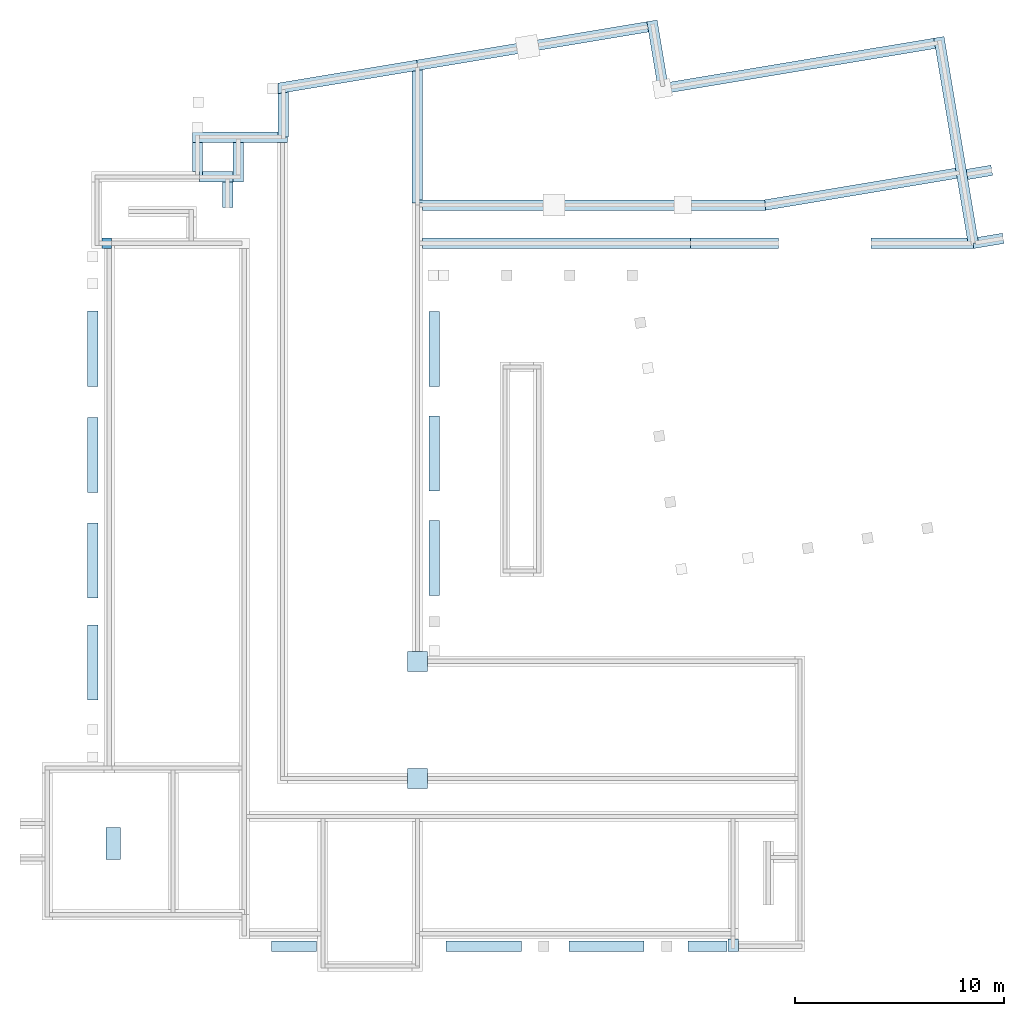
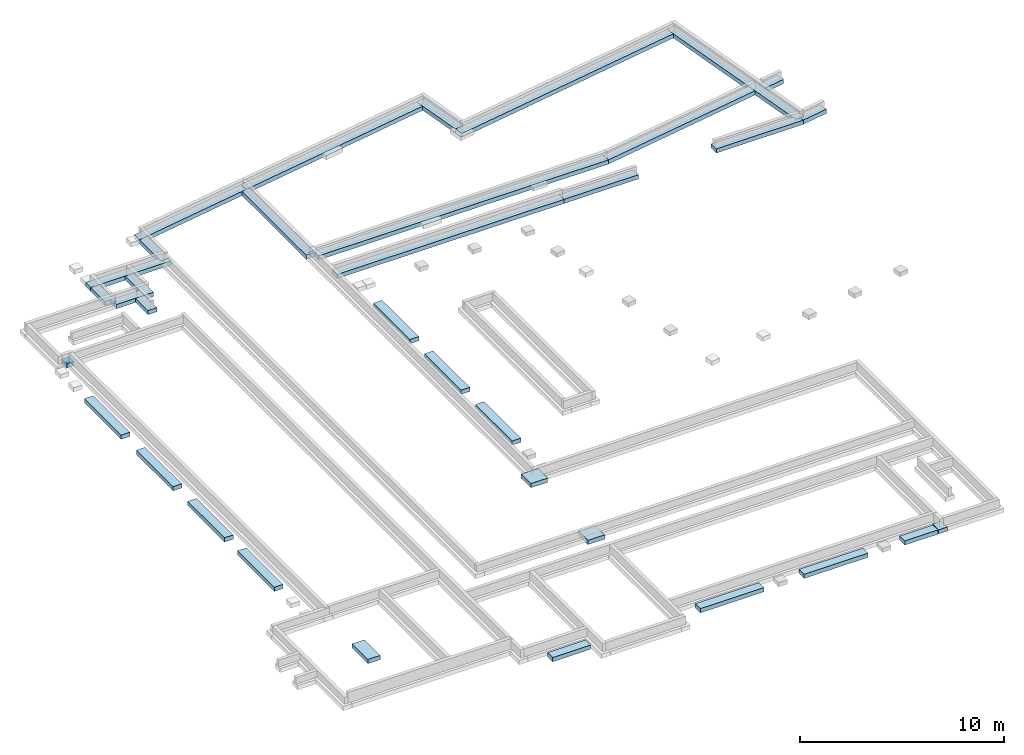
# One storey, part 2 of 5: 21 footings, 16 slabs.
"""IFC4 building model written with IfcOpenShell, lengths in metres."""

from ifc_helpers import new_model, entity, si_unit, converted_unit, derived_unit, direction, frame, origin, place, context, subcontext, project, spatial, indexed_curve, outline, extrude, material, type_object, element, save


model = new_model("IFC4")

# Units and contexts
model_context = context("Model", 3, precision=1e-05, world=origin(), true_north=direction((6.123031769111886e-17, 1.0)))
body_context = subcontext(model_context, "Body", "Model", "MODEL_VIEW")
ifc_project = project(units=[si_unit("LENGTHUNIT", "METRE"), si_unit("AREAUNIT", "SQUARE_METRE"), si_unit("VOLUMEUNIT", "CUBIC_METRE"), converted_unit("PLANEANGLEUNIT", "DEGREE", entity("IfcRatioMeasure", 0.017453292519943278), si_unit("PLANEANGLEUNIT", "RADIAN"), dimensions=[0, 0, 0, 0, 0, 0, 0]), si_unit("MASSUNIT", "GRAM", prefix="KILO"), derived_unit("MASSDENSITYUNIT", [(si_unit("MASSUNIT", "GRAM", prefix="KILO"), 1), (si_unit("LENGTHUNIT", "METRE"), -3)]), derived_unit("MOMENTOFINERTIAUNIT", [(si_unit("LENGTHUNIT", "METRE"), 4)]), si_unit("TIMEUNIT", "SECOND"), si_unit("FREQUENCYUNIT", "HERTZ"), si_unit("THERMODYNAMICTEMPERATUREUNIT", "DEGREE_CELSIUS"), derived_unit("THERMALTRANSMITTANCEUNIT", [(si_unit("MASSUNIT", "GRAM", prefix="KILO"), 1), (si_unit("THERMODYNAMICTEMPERATUREUNIT", "KELVIN"), -1), (si_unit("TIMEUNIT", "SECOND"), -3)]), derived_unit("VOLUMETRICFLOWRATEUNIT", [(si_unit("LENGTHUNIT", "METRE"), 3), (si_unit("TIMEUNIT", "SECOND"), -1)]), derived_unit("MASSFLOWRATEUNIT", [(si_unit("MASSUNIT", "GRAM", prefix="KILO"), 1), (si_unit("TIMEUNIT", "SECOND"), -1)]), derived_unit("ROTATIONALFREQUENCYUNIT", [(si_unit("TIMEUNIT", "SECOND"), -1)]), si_unit("ELECTRICCURRENTUNIT", "AMPERE"), si_unit("ELECTRICVOLTAGEUNIT", "VOLT"), si_unit("POWERUNIT", "WATT"), si_unit("FORCEUNIT", "NEWTON", prefix="KILO"), si_unit("ILLUMINANCEUNIT", "LUX"), si_unit("LUMINOUSFLUXUNIT", "LUMEN"), si_unit("LUMINOUSINTENSITYUNIT", "CANDELA"), derived_unit("USERDEFINED", [(si_unit("MASSUNIT", "GRAM", prefix="KILO"), -1), (si_unit("LENGTHUNIT", "METRE"), -2), (si_unit("TIMEUNIT", "SECOND"), 3), (si_unit("LUMINOUSFLUXUNIT", "LUMEN"), 1)]), derived_unit("SOUNDPOWERUNIT", [(si_unit("MASSUNIT", "GRAM", prefix="KILO"), 1), (si_unit("LENGTHUNIT", "METRE"), 2), (si_unit("TIMEUNIT", "SECOND"), -3)]), derived_unit("SOUNDPRESSUREUNIT", [(si_unit("MASSUNIT", "GRAM", prefix="KILO"), 1), (si_unit("LENGTHUNIT", "METRE"), -1), (si_unit("TIMEUNIT", "SECOND"), -2)]), derived_unit("LINEARVELOCITYUNIT", [(si_unit("LENGTHUNIT", "METRE"), 1), (si_unit("TIMEUNIT", "SECOND"), -1)]), si_unit("PRESSUREUNIT", "PASCAL"), derived_unit("USERDEFINED", [(si_unit("LENGTHUNIT", "METRE"), -2), (si_unit("MASSUNIT", "GRAM", prefix="KILO"), 1), (si_unit("TIMEUNIT", "SECOND"), -2)]), derived_unit("LINEARFORCEUNIT", [(si_unit("MASSUNIT", "GRAM", prefix="KILO"), 1), (si_unit("LENGTHUNIT", "METRE"), 1), (si_unit("TIMEUNIT", "SECOND"), -2), (si_unit("LENGTHUNIT", "METRE"), -1)]), derived_unit("PLANARFORCEUNIT", [(si_unit("MASSUNIT", "GRAM", prefix="KILO"), 1), (si_unit("LENGTHUNIT", "METRE"), 1), (si_unit("TIMEUNIT", "SECOND"), -2), (si_unit("LENGTHUNIT", "METRE"), -2)])], contexts=[model_context])

# Site, building, storey
site_placement = place(None, origin())
site = spatial("IfcSite", under=ifc_project, at=site_placement, Name="Default", CompositionType="ELEMENT")
building_placement = place(site_placement, origin())
building = spatial("IfcBuilding", under=site, at=building_placement, CompositionType="ELEMENT")
storey_placement = place(building_placement, frame((0.0, 0.0, -0.88)))
storey = spatial("IfcBuildingStorey", under=building, at=storey_placement, Name="Arase inf soubassement", CompositionType="ELEMENT", Elevation=-0.88)

# Footings
ifc_material = material(Name="Maçonnerie - Béton", Category="Béton")
footing_type_1 = type_object("IfcFootingType", Name="Semelle filante:SF 50x25ht", PredefinedType="STRIP_FOOTING")
footing_1_placement = place(storey_placement, origin())
element("IfcFooting", 1, at=footing_1_placement, inside=storey, type_object=footing_type_1, material=ifc_material, Name="Semelle filante:SF 50x25ht", ObjectType="Semelle filante:SF 50x25ht", PredefinedType="STRIP_FOOTING", context=body_context, shape_type="SweptSolid", body=[
    extrude(outline(indexed_curve([(-3.6280551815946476, -0.27083333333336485), (-3.378055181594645, -0.2708333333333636), (-0.5780551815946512, -0.27083333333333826), (-0.07805518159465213, -0.27083333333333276), (6.361944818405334, -0.2708333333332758), (6.3619448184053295, 0.22916666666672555), (5.861944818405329, 0.22916666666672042), (0.061944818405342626, 0.22916666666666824), (-0.43805518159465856, 0.22916666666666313), (-3.3330044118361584, 0.22916666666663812), (-3.5864437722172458, 0.2291666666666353), (-3.628055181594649, -0.020833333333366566), (-3.6280551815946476, -0.27083333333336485)], self_intersect=False)), frame((14.71724122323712, 14.264505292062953, 0.0), z_axis=(0.0, 0.0, 1.0), x_axis=(-0.164186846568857, 0.9864292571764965, 0.0)), (0.0, 0.0, 1.0), 0.25),
])
footing_type_2 = type_object("IfcFootingType", Name="Semelle filante:SF 50x25ht", PredefinedType="STRIP_FOOTING")
footing_2_placement = place(storey_placement, origin())
element("IfcFooting", 2, at=footing_2_placement, inside=storey, type_object=footing_type_2, material=ifc_material, Name="Semelle filante:SF 50x25ht", ObjectType="Semelle filante:SF 50x25ht", PredefinedType="STRIP_FOOTING", context=body_context, shape_type="SweptSolid", body=[
    extrude(outline(indexed_curve([(-5.464000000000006, -0.3000000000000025), (7.946000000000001, -0.3000000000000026), (7.946000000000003, 0.1999999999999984), (-4.964000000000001, 0.19999999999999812), (-5.464000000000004, 0.19999999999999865), (-5.464000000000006, -0.3000000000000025)], self_intersect=False)), frame((5.641307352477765, 19.000573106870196, 0.0), z_axis=(0.0, 0.0, 1.0), x_axis=(0.9864292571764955, 0.16418684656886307, 0.0)), (0.0, 0.0, 1.0), 0.24999999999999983),
])
footing_type_3 = type_object("IfcFootingType", Name="Semelle filante:SF 50x25ht", PredefinedType="STRIP_FOOTING")
footing_3_placement = place(storey_placement, origin())
element("IfcFooting", 3, at=footing_3_placement, inside=storey, type_object=footing_type_3, material=ifc_material, Name="Semelle filante:SF 50x25ht", ObjectType="Semelle filante:SF 50x25ht", PredefinedType="STRIP_FOOTING", context=body_context, shape_type="SweptSolid", body=[
    extrude(outline(indexed_curve([(-1.3120000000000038, -0.19999999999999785), (-0.812000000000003, -0.19999999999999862), (1.7180000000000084, -0.2000000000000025), (1.7180000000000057, 0.29999999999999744), (-1.3120000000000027, 0.3000000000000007), (-1.3120000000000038, -0.19999999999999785)], self_intersect=False)), frame((0.13383337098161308, 20.028264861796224, 0.0), z_axis=(0.0, 0.0, 1.0), x_axis=(0.1641868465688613, -0.9864292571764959, 0.0)), (0.0, 0.0, 1.0), 0.24999999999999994),
])
footing_type_4 = type_object("IfcFootingType", Name="Semelle filante:SF 50x25ht", PredefinedType="STRIP_FOOTING")
footing_4_placement = place(storey_placement, origin())
element("IfcFooting", 4, at=footing_4_placement, inside=storey, type_object=footing_type_4, material=ifc_material, Name="Semelle filante:SF 50x25ht", ObjectType="Semelle filante:SF 50x25ht", PredefinedType="STRIP_FOOTING", context=body_context, shape_type="SweptSolid", body=[
    extrude(outline(indexed_curve([(-4.509236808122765, -0.19999999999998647), (-4.297408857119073, -0.19999999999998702), (6.657941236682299, -0.20000000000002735), (6.6579412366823, 0.2999999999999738), (-4.509236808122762, 0.3000000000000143), (-4.509236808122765, -0.19999999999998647)], self_intersect=False)), frame((-6.797197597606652, 19.90054752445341, 0.0), z_axis=(0.0, 0.0, 1.0), x_axis=(0.9864292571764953, 0.1641868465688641, 0.0)), (0.0, 0.0, 1.0), 0.24999999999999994),
])
footing_type_5 = type_object("IfcFootingType", Name="Semelle filante:SF 50x25ht", PredefinedType="STRIP_FOOTING")
footing_5_placement = place(storey_placement, origin())
element("IfcFooting", 5, at=footing_5_placement, inside=storey, type_object=footing_type_5, material=ifc_material, Name="Semelle filante:SF 50x25ht", ObjectType="Semelle filante:SF 50x25ht", PredefinedType="STRIP_FOOTING", context=body_context, shape_type="SweptSolid", body=[
    extrude(outline(indexed_curve([(-3.3483502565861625, -0.3333333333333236), (3.363477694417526, -0.333333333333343), (3.4467005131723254, 0.16666666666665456), (2.939821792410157, 0.16666666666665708), (-3.053299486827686, 0.1666666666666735), (-3.3483502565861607, 0.166666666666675), (-3.3483502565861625, -0.3333333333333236)], self_intersect=False)), frame((-14.542678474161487, 18.577554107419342, 0.0), z_axis=(0.0, 0.0, 1.0), x_axis=(-0.9864292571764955, -0.16418684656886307, 0.0)), (0.0, 0.0, 1.0), 0.2499999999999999),
])
footing_type_6 = type_object("IfcFootingType", Name="Semelle filante:SF 50x25ht", PredefinedType="STRIP_FOOTING")
footing_6_placement = place(storey_placement, origin())
element("IfcFooting", 6, at=footing_6_placement, inside=storey, type_object=footing_type_6, material=ifc_material, Name="Semelle filante:SF 50x25ht", ObjectType="Semelle filante:SF 50x25ht", PredefinedType="STRIP_FOOTING", context=body_context, shape_type="SweptSolid", body=[
    extrude(outline(indexed_curve([(-0.7482505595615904, -0.258034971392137), (1.4131125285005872, -0.2580349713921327), (1.3298897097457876, 0.24196502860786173), (-0.49825055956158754, 0.24196502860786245), (-0.7482505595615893, 0.24196502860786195), (-0.7482505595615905, -0.20982514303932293), (-0.7482505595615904, -0.258034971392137)], self_intersect=False)), frame((-17.673275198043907, 16.517356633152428, 0.0), z_axis=(0.0, 0.0, 1.0), x_axis=(0.0, 1.0, 0.0)), (0.0, 0.0, 1.0), 0.25),
])
footing_type_7 = type_object("IfcFootingType", Name="Semelle filante:SF 50x25ht", PredefinedType="STRIP_FOOTING")
footing_7_placement = place(storey_placement, origin())
element("IfcFooting", 7, at=footing_7_placement, inside=storey, type_object=footing_type_7, material=ifc_material, Name="Semelle filante:SF 50x25ht", ObjectType="Semelle filante:SF 50x25ht", PredefinedType="STRIP_FOOTING", context=body_context, shape_type="SweptSolid", body=[
    extrude(outline(indexed_curve([(-0.20499999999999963, -0.2916666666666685), (0.235, -0.2916666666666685), (0.23499999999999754, 0.20833333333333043), (0.14499999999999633, 0.20833333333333), (-0.20500000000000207, 0.20833333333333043), (-0.20500000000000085, -0.04166666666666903), (-0.20499999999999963, -0.2916666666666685)], self_intersect=False)), frame((-26.09845005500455, 10.647439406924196, 0.0), z_axis=(0.0, 0.0, 1.0), x_axis=(-1.0, 0.0, 0.0)), (0.0, 0.0, 1.0), 0.25),
])
footing_type_8 = type_object("IfcFootingType", Name="Semelle filante:SF 50x25ht", PredefinedType="STRIP_FOOTING")
footing_8_placement = place(storey_placement, origin())
element("IfcFooting", 8, at=footing_8_placement, inside=storey, type_object=footing_type_8, material=ifc_material, Name="Semelle filante:SF 50x25ht", ObjectType="Semelle filante:SF 50x25ht", PredefinedType="STRIP_FOOTING", context=body_context, shape_type="SweptSolid", body=[
    extrude(outline(indexed_curve([(-0.33999999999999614, -0.19999999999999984), (0.1600000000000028, -0.19999999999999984), (0.26000000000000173, -0.2000000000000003), (0.2600000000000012, 0.29999999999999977), (-0.3399999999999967, 0.3000000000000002), (-0.33999999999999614, -0.19999999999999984)], self_intersect=False)), frame((3.896549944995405, -22.845893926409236, 0.0), z_axis=(0.0, 0.0, 1.0), x_axis=(0.0, 1.0, 0.0)), (0.0, 0.0, 1.0), 0.25),
])
footing_type_9 = type_object("IfcFootingType", Name="Semelle filante:SF 50x25ht", PredefinedType="STRIP_FOOTING")
footing_9_placement = place(storey_placement, origin())
element("IfcFooting", 9, at=footing_9_placement, inside=storey, type_object=footing_type_9, material=ifc_material, Name="Semelle filante:SF 50x25ht", ObjectType="Semelle filante:SF 50x25ht", PredefinedType="STRIP_FOOTING", context=body_context, shape_type="SweptSolid", body=[
    extrude(outline(indexed_curve([(-6.40850601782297, -0.2499999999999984), (6.40850601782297, -0.2499999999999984), (6.408506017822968, 0.25000000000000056), (-6.40850601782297, 0.25000000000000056), (-6.40850601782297, -0.2499999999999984)], self_intersect=False)), frame((-4.5949440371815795, 10.689106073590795, 0.0)), (0.0, 0.0, 1.0), 0.25),
])
footing_type_10 = type_object("IfcFootingType", Name="Semelle filante:SF 50x25ht", PredefinedType="STRIP_FOOTING")
footing_10_placement = place(storey_placement, origin())
element("IfcFooting", 10, at=footing_10_placement, inside=storey, type_object=footing_type_10, material=ifc_material, Name="Semelle filante:SF 50x25ht", ObjectType="Semelle filante:SF 50x25ht", PredefinedType="STRIP_FOOTING", context=body_context, shape_type="SweptSolid", body=[
    extrude(outline(indexed_curve([(-3.178695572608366, -0.2499999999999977), (1.7419679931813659, -0.2499999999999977), (1.721304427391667, -4.393848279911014e-16), (1.4678650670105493, 8.34415684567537e-16), (1.426253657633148, 0.25000000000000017), (-3.178695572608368, 0.2500000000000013), (-3.178695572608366, -0.2499999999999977)], self_intersect=False)), frame((13.612166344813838, 10.689106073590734, 0.0)), (0.0, 0.0, 1.0), 0.25),
])
footing_type_11 = type_object("IfcFootingType", Name="Semelle filante:SF 50x25ht", PredefinedType="STRIP_FOOTING")
footing_11_placement = place(storey_placement, origin())
element("IfcFooting", 11, at=footing_11_placement, inside=storey, type_object=footing_type_11, material=ifc_material, Name="Semelle filante:SF 50x25ht", ObjectType="Semelle filante:SF 50x25ht", PredefinedType="STRIP_FOOTING", context=body_context, shape_type="SweptSolid", body=[
    extrude(outline(indexed_curve([(-0.886777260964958, -0.25), (0.3132227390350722, -0.2500000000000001), (0.31322273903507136, 6.344924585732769e-16), (0.5632227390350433, -2.368771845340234e-16), (0.5838863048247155, 0.2499999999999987), (-0.8867772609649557, 0.2499999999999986), (-0.886777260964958, -0.25)], self_intersect=False)), frame((15.88905016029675, 10.78157983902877, 0.0), z_axis=(0.0, 0.0, 1.0), x_axis=(-0.9864292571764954, -0.16418684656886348, 0.0)), (0.0, 0.0, 1.0), 0.25),
])
footing_type_12 = type_object("IfcFootingType", Name="Semelle filante:SF 50x25ht", PredefinedType="STRIP_FOOTING")
footing_12_placement = place(storey_placement, origin())
element("IfcFooting", 12, at=footing_12_placement, inside=storey, type_object=footing_type_12, material=ifc_material, Name="Semelle filante:SF 50x25ht", ObjectType="Semelle filante:SF 50x25ht", PredefinedType="STRIP_FOOTING", context=body_context, shape_type="SweptSolid", body=[
    extrude(outline(indexed_curve([(-0.6000000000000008, -0.2499999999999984), (0.600000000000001, -0.24999999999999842), (0.6000000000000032, 0.2500000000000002), (-0.5999999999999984, 0.2500000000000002), (-0.6000000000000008, -0.2499999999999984)], self_intersect=False)), frame((15.630119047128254, 14.083881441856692, 0.0), z_axis=(0.0, 0.0, 1.0), x_axis=(-0.9864292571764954, -0.16418684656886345, 0.0)), (0.0, 0.0, 1.0), 0.25),
])
footing_type_13 = type_object("IfcFootingType", Name="Semelle filante:SF 50x25ht", PredefinedType="STRIP_FOOTING")
footing_13_placement = place(storey_placement, origin())
element("IfcFooting", 13, at=footing_13_placement, inside=storey, type_object=footing_type_13, material=ifc_material, Name="Semelle filante:SF 50x25ht", ObjectType="Semelle filante:SF 50x25ht", PredefinedType="STRIP_FOOTING", context=body_context, shape_type="SweptSolid", body=[
    extrude(outline(indexed_curve([(-2.104999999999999, -0.2499999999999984), (2.1050000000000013, -0.2499999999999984), (2.105, 0.25000000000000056), (-2.105000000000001, 0.25000000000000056), (-2.104999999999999, -0.2499999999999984)], self_intersect=False)), frame((3.9185619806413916, 10.689106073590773, 0.0), z_axis=(0.0, 0.0, 1.0), x_axis=(-1.0, 0.0, 0.0)), (0.0, 0.0, 1.0), 0.25),
])
footing_type_14 = type_object("IfcFootingType", Name="Semelle filante:SF 50x25ht", PredefinedType="STRIP_FOOTING")
footing_14_placement = place(storey_placement, origin())
element("IfcFooting", 14, at=footing_14_placement, inside=storey, type_object=footing_type_14, material=ifc_material, Name="Semelle filante:SF 50x25ht", ObjectType="Semelle filante:SF 50x25ht", PredefinedType="STRIP_FOOTING", context=body_context, shape_type="SweptSolid", body=[
    extrude(outline(indexed_curve([(-0.18571428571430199, -4.858503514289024), (-0.03571428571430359, -4.858503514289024), (-0.03571428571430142, -4.608503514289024), (0.31428571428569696, -4.608503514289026), (0.31428571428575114, 11.791922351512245), (-0.18571428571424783, 11.750595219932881), (-0.18571428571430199, -4.608503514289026), (-0.18571428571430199, -4.858503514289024)], self_intersect=False)), frame((-6.394946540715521, 12.583391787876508, 0.0), z_axis=(0.0, 0.0, 1.0), x_axis=(0.0, -1.0, 0.0)), (0.0, 0.0, 1.0), 0.25),
])
footing_type_15 = type_object("IfcFootingType", Name="Semelle filante:SF 50x25ht", PredefinedType="STRIP_FOOTING")
footing_15_placement = place(storey_placement, origin())
element("IfcFooting", 15, at=footing_15_placement, inside=storey, type_object=footing_type_15, material=ifc_material, Name="Semelle filante:SF 50x25ht", ObjectType="Semelle filante:SF 50x25ht", PredefinedType="STRIP_FOOTING", context=body_context, shape_type="SweptSolid", body=[
    extrude(outline(indexed_curve([(-4.6564488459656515, -0.24999999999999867), (4.635785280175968, -0.2499999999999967), (4.635785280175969, 0.2499999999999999), (-4.615121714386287, 0.25000000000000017), (-4.6564488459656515, -0.24999999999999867)], self_intersect=False)), frame((9.949186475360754, 13.280241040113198, 0.0), z_axis=(0.0, 0.0, 1.0), x_axis=(0.9864292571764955, 0.16418684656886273, 0.0)), (0.0, 0.0, 1.0), 0.25),
])
footing_type_16 = type_object("IfcFootingType", Name="Semelle filante:SF 50x25ht", PredefinedType="STRIP_FOOTING")
footing_16_placement = place(storey_placement, origin())
element("IfcFooting", 16, at=footing_16_placement, inside=storey, type_object=footing_type_16, material=ifc_material, Name="Semelle filante:SF 50x25ht", ObjectType="Semelle filante:SF 50x25ht", PredefinedType="STRIP_FOOTING", context=body_context, shape_type="SweptSolid", body=[
    extrude(outline(indexed_curve([(-0.25586381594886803, -2.7596757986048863), (-0.005863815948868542, -2.7596757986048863), (-0.005863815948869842, -2.6096757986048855), (0.24413618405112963, -2.6096757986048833), (0.24413618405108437, 3.6189017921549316), (0.035182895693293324, 3.5841224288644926), (-0.2558638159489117, 3.5356789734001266), (-0.25586381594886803, -2.7596757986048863)], self_intersect=False)), frame((-11.247586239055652, 15.378781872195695, 0.0)), (0.0, 0.0, 1.0), 0.25),
])
footing_type_17 = type_object("IfcFootingType", Name="Semelle filante:SF 50x25ht", PredefinedType="STRIP_FOOTING")
footing_17_placement = place(storey_placement, origin())
element("IfcFooting", 17, at=footing_17_placement, inside=storey, type_object=footing_type_17, material=ifc_material, Name="Semelle filante:SF 50x25ht", ObjectType="Semelle filante:SF 50x25ht", PredefinedType="STRIP_FOOTING", context=body_context, shape_type="SweptSolid", body=[
    extrude(outline(indexed_curve([(-0.1500000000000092, -1.9303580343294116), (0.09999999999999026, -1.9303580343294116), (0.09999999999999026, -1.4785678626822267), (0.34999999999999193, -1.4785678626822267), (0.3500000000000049, 2.6296419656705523), (-0.14999999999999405, 2.6296419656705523), (-0.14999999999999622, 2.129641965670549), (-0.15000000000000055, 0.6796419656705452), (-0.15000000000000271, 0.17964196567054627), (-0.1500000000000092, -1.4303580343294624), (-0.1500000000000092, -1.9303580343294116)], self_intersect=False)), frame((-19.393808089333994, 15.669106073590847, 0.0), z_axis=(0.0, 0.0, 1.0), x_axis=(0.0, 1.0, 0.0)), (0.0, 0.0, 1.0), 0.25),
])
footing_type_18 = type_object("IfcFootingType", Name="Semelle filante:SF 50x25ht", PredefinedType="STRIP_FOOTING")
footing_18_placement = place(storey_placement, origin())
element("IfcFooting", 18, at=footing_18_placement, inside=storey, type_object=footing_type_18, material=ifc_material, Name="Semelle filante:SF 50x25ht", ObjectType="Semelle filante:SF 50x25ht", PredefinedType="STRIP_FOOTING", context=body_context, shape_type="SweptSolid", body=[
    extrude(outline(indexed_curve([(0.3285714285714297, 0.03571428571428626), (0.5785714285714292, 0.03571428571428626), (0.5785714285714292, 0.18571428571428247), (0.3285714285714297, 0.18571428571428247), (-1.0714285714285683, 0.1857142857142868), (-1.0714285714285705, -0.31428571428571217), (0.3285714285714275, -0.3142857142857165), (0.3285714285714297, 0.03571428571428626)], self_intersect=False)), frame((-21.709164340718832, 14.447677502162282, 0.0), z_axis=(0.0, 0.0, 1.0), x_axis=(0.0, -1.0, 0.0)), (0.0, 0.0, 1.0), 0.25),
])
footing_type_19 = type_object("IfcFootingType", Name="Semelle filante:SF 50x25ht", PredefinedType="STRIP_FOOTING")
footing_19_placement = place(storey_placement, origin())
element("IfcFooting", 19, at=footing_19_placement, inside=storey, type_object=footing_type_19, material=ifc_material, Name="Semelle filante:SF 50x25ht", ObjectType="Semelle filante:SF 50x25ht", PredefinedType="STRIP_FOOTING", context=body_context, shape_type="SweptSolid", body=[
    extrude(outline(indexed_curve([(-0.8599999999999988, -0.29999999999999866), (1.0399999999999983, -0.2999999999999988), (1.0399999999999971, 0.20000000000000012), (-0.35999999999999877, 0.2000000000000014), (-0.8599999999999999, 0.20000000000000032), (-0.8599999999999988, -0.29999999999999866)], self_intersect=False)), frame((-19.873450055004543, 14.479106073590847, 0.0), z_axis=(0.0, 0.0, 1.0), x_axis=(0.0, 1.0, 0.0)), (0.0, 0.0, 1.0), 0.25),
])
footing_type_20 = type_object("IfcFootingType", Name="Semelle filante:SF 50x25ht", PredefinedType="STRIP_FOOTING")
footing_20_placement = place(storey_placement, origin())
element("IfcFooting", 20, at=footing_20_placement, inside=storey, type_object=footing_type_20, material=ifc_material, Name="Semelle filante:SF 50x25ht", ObjectType="Semelle filante:SF 50x25ht", PredefinedType="STRIP_FOOTING", context=body_context, shape_type="SweptSolid", body=[
    extrude(outline(indexed_curve([(-0.7724999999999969, -0.1874999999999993), (0.3175000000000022, -0.18749999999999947), (0.8175000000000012, -0.18749999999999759), (0.8275000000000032, -0.18749999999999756), (0.8275000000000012, 0.3125000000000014), (-0.6225000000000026, 0.3125000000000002), (-0.6225000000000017, 0.06250000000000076), (-0.772499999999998, 0.0625000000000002), (-0.7724999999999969, -0.1874999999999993)], self_intersect=False)), frame((-20.900950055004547, 13.806606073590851, 0.0)), (0.0, 0.0, 1.0), 0.25),
])
footing_type_21 = type_object("IfcFootingType", Name="Semelle filante:SF 50x25ht", PredefinedType="STRIP_FOOTING")
footing_21_placement = place(storey_placement, origin())
element("IfcFooting", 21, at=footing_21_placement, inside=storey, type_object=footing_type_21, material=ifc_material, Name="Semelle filante:SF 50x25ht", ObjectType="Semelle filante:SF 50x25ht", PredefinedType="STRIP_FOOTING", context=body_context, shape_type="SweptSolid", body=[
    extrude(outline(indexed_curve([(-0.6050000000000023, -0.2499999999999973), (0.605000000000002, -0.2499999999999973), (0.6050000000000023, 0.25000000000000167), (-0.6050000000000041, 0.25000000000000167), (-0.6050000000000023, -0.2499999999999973)], self_intersect=False)), frame((-20.33345005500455, 13.014106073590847, 0.0), z_axis=(0.0, 0.0, 1.0), x_axis=(0.0, -1.0, 0.0)), (0.0, 0.0, 1.0), 0.25),
])

# Slabs
slab_type_1 = type_object("IfcSlabType", Name="SI 02:SI 02", PredefinedType="BASESLAB")
slab_1_placement = place(storey_placement, origin())
element("IfcSlab", 22, at=slab_1_placement, inside=storey, type_object=slab_type_1, Name="SI 02:SI 02", ObjectType="SI 02:SI 02", PredefinedType="BASESLAB", context=body_context, shape_type="SweptSolid", body=[
    extrude(outline(indexed_curve([(-0.4750000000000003, -0.4750000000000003), (0.4750000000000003, -0.4750000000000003), (0.4750000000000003, 0.4750000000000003), (-0.4750000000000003, 0.4750000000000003), (-0.4750000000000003, -0.4750000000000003)], self_intersect=False)), frame((-11.25345005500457, -9.305893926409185, 0.0), z_axis=(0.0, 0.0, 1.0), x_axis=(-1.0, 0.0, 0.0)), (0.0, 0.0, 1.0), 0.25),
])
slab_type_2 = type_object("IfcSlabType", Name="SI 2:SI 02", PredefinedType="BASESLAB")
slab_2_placement = place(storey_placement, origin())
element("IfcSlab", 23, at=slab_2_placement, inside=storey, type_object=slab_type_2, Name="SI 2:SI 02", ObjectType="SI 2:SI 02", PredefinedType="BASESLAB", context=body_context, shape_type="SweptSolid", body=[
    extrude(outline(indexed_curve([(-0.4750000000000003, -0.4750000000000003), (0.4750000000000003, -0.4750000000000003), (0.4750000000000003, 0.4750000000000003), (-0.4750000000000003, 0.4750000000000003), (-0.4750000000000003, -0.4750000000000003)], self_intersect=False)), frame((-11.25345005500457, -9.305893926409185, 0.0), z_axis=(0.0, 0.0, 1.0), x_axis=(-1.0, 0.0, 0.0)), (0.0, 0.0, 1.0), 0.25),
])
slab_type_3 = type_object("IfcSlabType", Name="SI 3:SI 02", PredefinedType="BASESLAB")
slab_3_placement = place(storey_placement, origin())
element("IfcSlab", 24, at=slab_3_placement, inside=storey, type_object=slab_type_3, Name="SI 3:SI 02", ObjectType="SI 3:SI 02", PredefinedType="BASESLAB", context=body_context, shape_type="SweptSolid", body=[
    extrude(outline(indexed_curve([(-0.4750000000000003, -0.4750000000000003), (0.4750000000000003, -0.4750000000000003), (0.4750000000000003, 0.4750000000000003), (-0.4750000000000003, 0.4750000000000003), (-0.4750000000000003, -0.4750000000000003)], self_intersect=False)), frame((-11.25345005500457, -9.305893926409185, 0.0), z_axis=(0.0, 0.0, 1.0), x_axis=(-1.0, 0.0, 0.0)), (0.0, 0.0, 1.0), 0.25),
])
slab_type_4 = type_object("IfcSlabType", Name="SI 4:SI 02", PredefinedType="BASESLAB")
slab_4_placement = place(storey_placement, origin())
element("IfcSlab", 25, at=slab_4_placement, inside=storey, type_object=slab_type_4, Name="SI 4:SI 02", ObjectType="SI 4:SI 02", PredefinedType="BASESLAB", context=body_context, shape_type="SweptSolid", body=[
    extrude(outline(indexed_curve([(-0.4750000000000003, -0.4750000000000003), (0.4750000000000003, -0.4750000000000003), (0.4750000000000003, 0.4750000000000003), (-0.4750000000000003, 0.4750000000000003), (-0.4750000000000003, -0.4750000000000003)], self_intersect=False)), frame((-11.25345005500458, -14.90589392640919, 0.0), z_axis=(0.0, 0.0, 1.0), x_axis=(-1.0, 0.0, 0.0)), (0.0, 0.0, 1.0), 0.25),
])
slab_type_5 = type_object("IfcSlabType", Name="SI 04:SI 04", PredefinedType="BASESLAB")
slab_5_placement = place(storey_placement, origin())
element("IfcSlab", 26, at=slab_5_placement, inside=storey, type_object=slab_type_5, Name="SI 04:SI 04", ObjectType="SI 04:SI 04", PredefinedType="BASESLAB", context=body_context, shape_type="SweptSolid", body=[
    extrude(outline(indexed_curve([(-0.3499999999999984, -0.7749999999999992), (0.3499999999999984, -0.7749999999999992), (0.3499999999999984, 0.7750000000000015), (-0.3499999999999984, 0.7750000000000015), (-0.3499999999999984, -0.7749999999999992)], self_intersect=False)), frame((-25.803450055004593, -18.02089392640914, 0.0), z_axis=(0.0, 0.0, 1.0), x_axis=(-1.0, 0.0, 0.0)), (0.0, 0.0, 1.0), 0.25),
])
slab_type_6 = type_object("IfcSlabType", Name="SF 01:SF 01", PredefinedType="BASESLAB")
slab_6_placement = place(storey_placement, origin())
element("IfcSlab", 27, at=slab_6_placement, inside=storey, type_object=slab_type_6, Name="SF 01:SF 01", ObjectType="SF 01:SF 01", PredefinedType="BASESLAB", context=body_context, shape_type="SweptSolid", body=[
    extrude(outline(indexed_curve([(-0.24999999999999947, -1.8), (0.24999999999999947, -1.8), (0.24999999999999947, 1.8), (-0.24999999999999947, 1.8), (-0.24999999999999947, -1.8)], self_intersect=False)), frame((-26.79345005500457, 0.564106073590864, 0.0), z_axis=(0.0, 0.0, 1.0), x_axis=(-1.0, 0.0, 0.0)), (0.0, 0.0, 1.0), 0.25),
])
slab_type_7 = type_object("IfcSlabType", Name="SF 1:SF 01", PredefinedType="BASESLAB")
slab_7_placement = place(storey_placement, origin())
element("IfcSlab", 28, at=slab_7_placement, inside=storey, type_object=slab_type_7, Name="SF 1:SF 01", ObjectType="SF 1:SF 01", PredefinedType="BASESLAB", context=body_context, shape_type="SweptSolid", body=[
    extrude(outline(indexed_curve([(-0.2499999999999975, -1.8000000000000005), (0.25000000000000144, -1.7999999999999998), (0.2499999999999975, 1.8000000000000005), (-0.25000000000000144, 1.7999999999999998), (-0.2499999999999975, -1.8000000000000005)], self_intersect=False)), frame((-26.793450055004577, -4.480893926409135, 0.0), z_axis=(0.0, 0.0, 1.0), x_axis=(-1.0, 0.0, 0.0)), (0.0, 0.0, 1.0), 0.25),
])
slab_type_8 = type_object("IfcSlabType", Name="SF 2:SF 01", PredefinedType="BASESLAB")
slab_8_placement = place(storey_placement, origin())
element("IfcSlab", 29, at=slab_8_placement, inside=storey, type_object=slab_type_8, Name="SF 2:SF 01", ObjectType="SF 2:SF 01", PredefinedType="BASESLAB", context=body_context, shape_type="SweptSolid", body=[
    extrude(outline(indexed_curve([(-0.24999999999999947, -1.8), (0.24999999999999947, -1.8), (0.24999999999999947, 1.8), (-0.24999999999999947, 1.8), (-0.24999999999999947, -1.8)], self_intersect=False)), frame((-26.793450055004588, -9.360893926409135, 0.0), z_axis=(0.0, 0.0, 1.0), x_axis=(-1.0, 0.0, 0.0)), (0.0, 0.0, 1.0), 0.25),
])
slab_type_9 = type_object("IfcSlabType", Name="SF 3:SF 01", PredefinedType="BASESLAB")
slab_9_placement = place(storey_placement, origin())
element("IfcSlab", 30, at=slab_9_placement, inside=storey, type_object=slab_type_9, Name="SF 3:SF 01", ObjectType="SF 3:SF 01", PredefinedType="BASESLAB", context=body_context, shape_type="SweptSolid", body=[
    extrude(outline(indexed_curve([(-0.24999999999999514, -1.8), (0.25000000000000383, -1.8), (0.25000000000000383, 1.8), (-0.24999999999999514, 1.8), (-0.24999999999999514, -1.8)], self_intersect=False)), frame((-26.79345005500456, 5.644106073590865, 0.0), z_axis=(0.0, 0.0, 1.0), x_axis=(-1.0, 0.0, 0.0)), (0.0, 0.0, 1.0), 0.25),
])
slab_type_10 = type_object("IfcSlabType", Name="SF 4:SF 01", PredefinedType="BASESLAB")
slab_10_placement = place(storey_placement, origin())
element("IfcSlab", 31, at=slab_10_placement, inside=storey, type_object=slab_type_10, Name="SF 4:SF 01", ObjectType="SF 4:SF 01", PredefinedType="BASESLAB", context=body_context, shape_type="SweptSolid", body=[
    extrude(outline(indexed_curve([(-0.2499999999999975, -1.8000000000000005), (0.25000000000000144, -1.7999999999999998), (0.2499999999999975, 1.8000000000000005), (-0.25000000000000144, 1.7999999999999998), (-0.2499999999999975, -1.8000000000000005)], self_intersect=False)), frame((-10.453450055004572, -4.365893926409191, 0.0), z_axis=(0.0, 0.0, 1.0), x_axis=(-1.0, 0.0, 0.0)), (0.0, 0.0, 1.0), 0.25),
])
slab_type_11 = type_object("IfcSlabType", Name="SF 5:SF 01", PredefinedType="BASESLAB")
slab_11_placement = place(storey_placement, origin())
element("IfcSlab", 32, at=slab_11_placement, inside=storey, type_object=slab_type_11, Name="SF 5:SF 01", ObjectType="SF 5:SF 01", PredefinedType="BASESLAB", context=body_context, shape_type="SweptSolid", body=[
    extrude(outline(indexed_curve([(-0.2499999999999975, -1.8000000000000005), (0.25000000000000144, -1.7999999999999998), (0.2499999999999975, 1.8000000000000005), (-0.25000000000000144, 1.7999999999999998), (-0.2499999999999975, -1.8000000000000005)], self_intersect=False)), frame((-10.453450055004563, 0.6391060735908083, 0.0), z_axis=(0.0, 0.0, 1.0), x_axis=(-1.0, 0.0, 0.0)), (0.0, 0.0, 1.0), 0.25),
])
slab_type_12 = type_object("IfcSlabType", Name="SF 6:SF 01", PredefinedType="BASESLAB")
slab_12_placement = place(storey_placement, origin())
element("IfcSlab", 33, at=slab_12_placement, inside=storey, type_object=slab_type_12, Name="SF 6:SF 01", ObjectType="SF 6:SF 01", PredefinedType="BASESLAB", context=body_context, shape_type="SweptSolid", body=[
    extrude(outline(indexed_curve([(-0.24999999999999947, -1.8), (0.24999999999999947, -1.8), (0.24999999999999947, 1.8), (-0.24999999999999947, 1.8), (-0.24999999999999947, -1.8)], self_intersect=False)), frame((-10.453450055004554, 5.639106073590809, 0.0), z_axis=(0.0, 0.0, 1.0), x_axis=(-1.0, 0.0, 0.0)), (0.0, 0.0, 1.0), 0.25),
])
slab_type_13 = type_object("IfcSlabType", Name="SF 7:SF 01", PredefinedType="BASESLAB")
slab_13_placement = place(storey_placement, origin())
element("IfcSlab", 34, at=slab_13_placement, inside=storey, type_object=slab_type_13, Name="SF 7:SF 01", ObjectType="SF 7:SF 01", PredefinedType="BASESLAB", context=body_context, shape_type="SweptSolid", body=[
    extrude(outline(indexed_curve([(-0.25000000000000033, -1.8000000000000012), (0.2499999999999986, -1.8), (0.24999999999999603, 1.7999999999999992), (-0.25000000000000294, 1.7999999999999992), (-0.25000000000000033, -1.8000000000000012)], self_intersect=False)), frame((-8.083450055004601, -22.930893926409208, 0.0), z_axis=(0.0, 0.0, 1.0), x_axis=(0.0, 1.0, 0.0)), (0.0, 0.0, 1.0), 0.25),
])
slab_type_14 = type_object("IfcSlabType", Name="SF 8:SF 01", PredefinedType="BASESLAB")
slab_14_placement = place(storey_placement, origin())
element("IfcSlab", 35, at=slab_14_placement, inside=storey, type_object=slab_type_14, Name="SF 8:SF 01", ObjectType="SF 8:SF 01", PredefinedType="BASESLAB", context=body_context, shape_type="SweptSolid", body=[
    extrude(outline(indexed_curve([(-0.25000000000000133, -1.8), (0.24999999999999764, -1.7999999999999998), (0.24999999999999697, 1.8), (-0.250000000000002, 1.7999999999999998), (-0.25000000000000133, -1.8)], self_intersect=False)), frame((-2.2034500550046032, -22.930893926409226, 0.0), z_axis=(0.0, 0.0, 1.0), x_axis=(0.0, 1.0, 0.0)), (0.0, 0.0, 1.0), 0.25),
])
slab_type_15 = type_object("IfcSlabType", Name="SF:SF", PredefinedType="BASESLAB")
slab_15_placement = place(storey_placement, origin())
element("IfcSlab", 36, at=slab_15_placement, inside=storey, type_object=slab_type_15, Name="SF:SF", ObjectType="SF:SF", PredefinedType="BASESLAB", context=body_context, shape_type="SweptSolid", body=[
    extrude(outline(indexed_curve([(-1.0749999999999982, -0.24999999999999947), (1.0750000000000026, -0.24999999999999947), (1.0750000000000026, 0.24999999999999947), (-1.0749999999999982, 0.24999999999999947), (-1.0749999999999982, -0.24999999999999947)], self_intersect=False)), frame((-17.158450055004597, -22.930893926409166, 0.0), z_axis=(0.0, 0.0, 1.0), x_axis=(-1.0, 0.0, 0.0)), (0.0, 0.0, 1.0), 0.25),
])
slab_type_16 = type_object("IfcSlabType", Name="SF01:SF01", PredefinedType="BASESLAB")
slab_16_placement = place(storey_placement, origin())
element("IfcSlab", 37, at=slab_16_placement, inside=storey, type_object=slab_type_16, Name="SF01:SF01", ObjectType="SF01:SF01", PredefinedType="BASESLAB", context=body_context, shape_type="SweptSolid", body=[
    extrude(outline(indexed_curve([(-0.9400000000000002, -0.24999999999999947), (0.94, -0.24999999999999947), (0.94, 0.24999999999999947), (-0.9400000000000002, 0.24999999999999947), (-0.9400000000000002, -0.24999999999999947)], self_intersect=False)), frame((2.6265499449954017, -22.930893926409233, 0.0), z_axis=(0.0, 0.0, 1.0), x_axis=(-1.0, 0.0, 0.0)), (0.0, 0.0, 1.0), 0.25),
])

save(model, "model.ifc")
